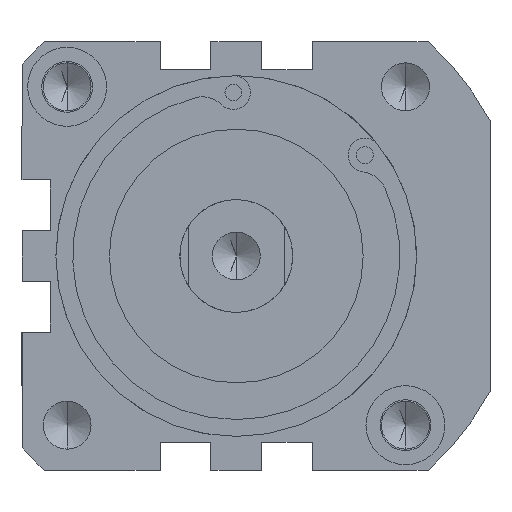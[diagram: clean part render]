
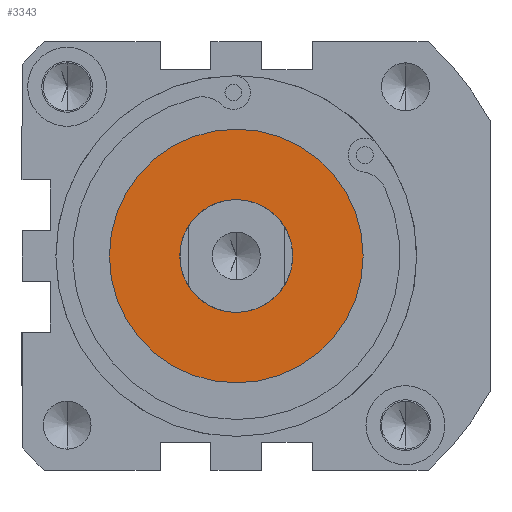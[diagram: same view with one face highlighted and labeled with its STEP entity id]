
A CAD part, front view. The second image highlights one B-rep face of the part: STEP entity #3343.
In plain terms, the highlighted planar face has unit normal (0, -1, 0) as drawn and (0, 1, 0) by its records, which use the part's own axes.
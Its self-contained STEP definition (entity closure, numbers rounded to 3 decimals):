
#101 = CIRCLE ( 'NONE', #2465, 10. ) ;
#116 = DIRECTION ( 'NONE',  ( 0., 1., 0. ) ) ;
#154 = EDGE_LOOP ( 'NONE', ( #240, #1396 ) ) ;
#240 = ORIENTED_EDGE ( 'NONE', *, *, #754, .T. ) ;
#338 = VERTEX_POINT ( 'NONE', #1104 ) ;
#358 = EDGE_CURVE ( 'NONE', #852, #338, #666, .T. ) ;
#574 = CARTESIAN_POINT ( 'NONE',  ( 0., 0., 0. ) ) ;
#634 = VERTEX_POINT ( 'NONE', #2929 ) ;
#641 = PLANE ( 'NONE',  #1986 ) ;
#666 = CIRCLE ( 'NONE', #1313, 10. ) ;
#685 = DIRECTION ( 'NONE',  ( 0., 0., 1. ) ) ;
#696 = CARTESIAN_POINT ( 'NONE',  ( 0., 0., 0. ) ) ;
#754 = EDGE_CURVE ( 'NONE', #909, #634, #1447, .T. ) ;
#847 = DIRECTION ( 'NONE',  ( 0., 1., 0. ) ) ;
#852 = VERTEX_POINT ( 'NONE', #3115 ) ;
#909 = VERTEX_POINT ( 'NONE', #3478 ) ;
#1079 = FACE_OUTER_BOUND ( 'NONE', #154, .T. ) ;
#1104 = CARTESIAN_POINT ( 'NONE',  ( 0., 0., -10. ) ) ;
#1174 = CARTESIAN_POINT ( 'NONE',  ( 0., 0., 0. ) ) ;
#1190 = DIRECTION ( 'NONE',  ( 0., 0., 1. ) ) ;
#1209 = DIRECTION ( 'NONE',  ( 0., 1., 0. ) ) ;
#1313 = AXIS2_PLACEMENT_3D ( 'NONE', #3024, #3006, #2186 ) ;
#1396 = ORIENTED_EDGE ( 'NONE', *, *, #2188, .T. ) ;
#1433 = CARTESIAN_POINT ( 'NONE',  ( 0., 0., 0. ) ) ;
#1447 = CIRCLE ( 'NONE', #3410, 22.5 ) ;
#1611 = EDGE_CURVE ( 'NONE', #338, #852, #101, .T. ) ;
#1983 = DIRECTION ( 'NONE',  ( 0., 1., 0. ) ) ;
#1986 = AXIS2_PLACEMENT_3D ( 'NONE', #1174, #1983, #3100 ) ;
#2186 = DIRECTION ( 'NONE',  ( 0., 0., 1. ) ) ;
#2188 = EDGE_CURVE ( 'NONE', #634, #909, #2526, .T. ) ;
#2289 = DIRECTION ( 'NONE',  ( 0., 0., 1. ) ) ;
#2366 = AXIS2_PLACEMENT_3D ( 'NONE', #1433, #116, #2289 ) ;
#2465 = AXIS2_PLACEMENT_3D ( 'NONE', #574, #847, #1190 ) ;
#2526 = CIRCLE ( 'NONE', #2366, 22.5 ) ;
#2639 = EDGE_LOOP ( 'NONE', ( #2918, #3513 ) ) ;
#2918 = ORIENTED_EDGE ( 'NONE', *, *, #1611, .F. ) ;
#2929 = CARTESIAN_POINT ( 'NONE',  ( 0., 0., -22.5 ) ) ;
#3006 = DIRECTION ( 'NONE',  ( 0., 1., 0. ) ) ;
#3024 = CARTESIAN_POINT ( 'NONE',  ( 0., 0., 0. ) ) ;
#3100 = DIRECTION ( 'NONE',  ( 0., 0., 1. ) ) ;
#3115 = CARTESIAN_POINT ( 'NONE',  ( 0., 0., 10. ) ) ;
#3330 = FACE_BOUND ( 'NONE', #2639, .T. ) ;
#3343 = ADVANCED_FACE ( 'NONE', ( #1079, #3330 ), #641, .T. ) ;
#3410 = AXIS2_PLACEMENT_3D ( 'NONE', #696, #1209, #685 ) ;
#3478 = CARTESIAN_POINT ( 'NONE',  ( 0., 0., 22.5 ) ) ;
#3513 = ORIENTED_EDGE ( 'NONE', *, *, #358, .F. ) ;
